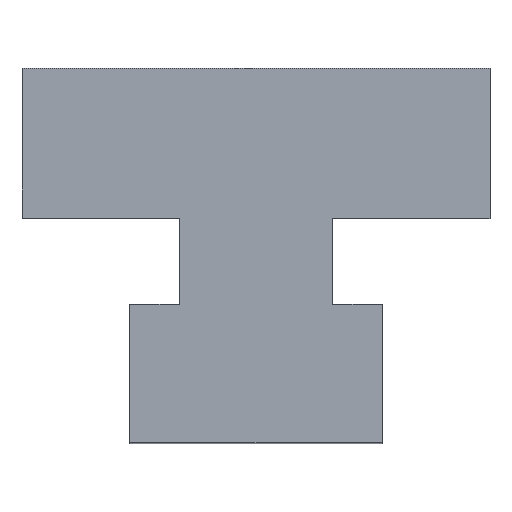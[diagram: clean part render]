
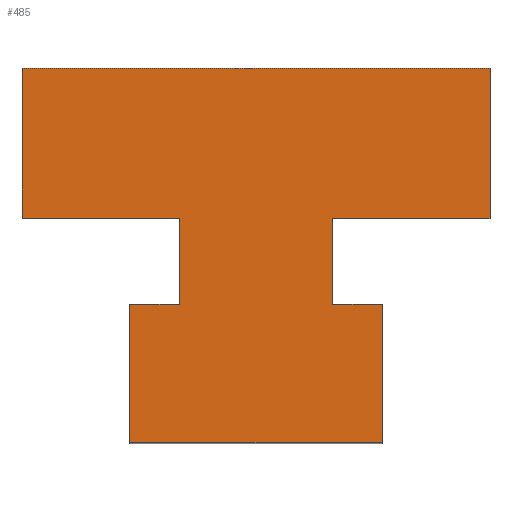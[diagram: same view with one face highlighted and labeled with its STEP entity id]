
A CAD part, top view. The second image highlights one B-rep face of the part: STEP entity #485.
In plain terms, the highlighted planar face has unit normal (0, 0, 1).
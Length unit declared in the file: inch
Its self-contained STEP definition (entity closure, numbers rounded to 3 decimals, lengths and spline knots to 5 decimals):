
#79=CARTESIAN_POINT('',(0.16142,-0.1811,1.0));
#80=VERTEX_POINT('',#79);
#81=CARTESIAN_POINT('',(0.26575,-0.1811,1.0));
#82=VERTEX_POINT('',#81);
#83=CARTESIAN_POINT('',(0.16142,-0.1811,1.0));
#84=DIRECTION('',(1.0,0.0,0.0));
#85=VECTOR('',#84,0.10433);
#86=LINE('',#83,#85);
#87=EDGE_CURVE('',#80,#82,#86,.T.);
#119=CARTESIAN_POINT('',(0.26575,-0.47244,1.0));
#120=VERTEX_POINT('',#119);
#121=CARTESIAN_POINT('',(0.26575,-0.1811,1.0));
#122=DIRECTION('',(0.0,-1.0,0.0));
#123=VECTOR('',#122,0.29134);
#124=LINE('',#121,#123);
#125=EDGE_CURVE('',#82,#120,#124,.T.);
#150=CARTESIAN_POINT('',(-0.26575,-0.47244,1.0));
#151=VERTEX_POINT('',#150);
#152=CARTESIAN_POINT('',(0.26575,-0.47244,1.0));
#153=DIRECTION('',(-1.0,0.0,0.0));
#154=VECTOR('',#153,0.5315);
#155=LINE('',#152,#154);
#156=EDGE_CURVE('',#120,#151,#155,.T.);
#181=CARTESIAN_POINT('',(-0.26575,-0.1811,1.0));
#182=VERTEX_POINT('',#181);
#183=CARTESIAN_POINT('',(-0.26575,-0.47244,1.0));
#184=DIRECTION('',(0.0,1.0,0.0));
#185=VECTOR('',#184,0.29134);
#186=LINE('',#183,#185);
#187=EDGE_CURVE('',#151,#182,#186,.T.);
#212=CARTESIAN_POINT('',(-0.16142,-0.1811,1.0));
#213=VERTEX_POINT('',#212);
#214=CARTESIAN_POINT('',(-0.26575,-0.1811,1.0));
#215=DIRECTION('',(1.0,0.0,0.0));
#216=VECTOR('',#215,0.10433);
#217=LINE('',#214,#216);
#218=EDGE_CURVE('',#182,#213,#217,.T.);
#243=CARTESIAN_POINT('',(-0.16142,0.,1.0));
#244=VERTEX_POINT('',#243);
#245=CARTESIAN_POINT('',(-0.16142,-0.1811,1.0));
#246=DIRECTION('',(0.0,1.0,0.0));
#247=VECTOR('',#246,0.1811);
#248=LINE('',#245,#247);
#249=EDGE_CURVE('',#213,#244,#248,.T.);
#274=CARTESIAN_POINT('',(-0.49213,0.,1.0));
#275=VERTEX_POINT('',#274);
#276=CARTESIAN_POINT('',(-0.16142,0.,1.0));
#277=DIRECTION('',(-1.0,0.0,0.0));
#278=VECTOR('',#277,0.33071);
#279=LINE('',#276,#278);
#280=EDGE_CURVE('',#244,#275,#279,.T.);
#305=CARTESIAN_POINT('',(-0.49213,0.31496,1.0));
#306=VERTEX_POINT('',#305);
#307=CARTESIAN_POINT('',(-0.49213,0.,1.0));
#308=DIRECTION('',(0.0,1.0,0.0));
#309=VECTOR('',#308,0.31496);
#310=LINE('',#307,#309);
#311=EDGE_CURVE('',#275,#306,#310,.T.);
#336=CARTESIAN_POINT('',(0.49213,0.31496,1.0));
#337=VERTEX_POINT('',#336);
#338=CARTESIAN_POINT('',(-0.49213,0.31496,1.0));
#339=DIRECTION('',(1.0,0.0,0.0));
#340=VECTOR('',#339,0.98425);
#341=LINE('',#338,#340);
#342=EDGE_CURVE('',#306,#337,#341,.T.);
#367=CARTESIAN_POINT('',(0.49213,0.,1.0));
#368=VERTEX_POINT('',#367);
#369=CARTESIAN_POINT('',(0.49213,0.31496,1.0));
#370=DIRECTION('',(0.0,-1.0,0.0));
#371=VECTOR('',#370,0.31496);
#372=LINE('',#369,#371);
#373=EDGE_CURVE('',#337,#368,#372,.T.);
#398=CARTESIAN_POINT('',(0.16142,0.,1.0));
#399=VERTEX_POINT('',#398);
#400=CARTESIAN_POINT('',(0.49213,0.,1.0));
#401=DIRECTION('',(-1.0,0.0,0.0));
#402=VECTOR('',#401,0.33071);
#403=LINE('',#400,#402);
#404=EDGE_CURVE('',#368,#399,#403,.T.);
#429=CARTESIAN_POINT('',(0.16142,0.,1.0));
#430=DIRECTION('',(0.0,-1.0,0.0));
#431=VECTOR('',#430,0.1811);
#432=LINE('',#429,#431);
#433=EDGE_CURVE('',#399,#80,#432,.T.);
#466=CARTESIAN_POINT('',(0.,-0.02598,1.0));
#467=DIRECTION('',(0.0,0.0,1.0));
#468=DIRECTION('',(1.0,0.0,0.0));
#469=AXIS2_PLACEMENT_3D('',#466,#467,#468);
#470=PLANE('',#469);
#471=ORIENTED_EDGE('',*,*,#87,.F.);
#472=ORIENTED_EDGE('',*,*,#433,.F.);
#473=ORIENTED_EDGE('',*,*,#404,.F.);
#474=ORIENTED_EDGE('',*,*,#373,.F.);
#475=ORIENTED_EDGE('',*,*,#342,.F.);
#476=ORIENTED_EDGE('',*,*,#311,.F.);
#477=ORIENTED_EDGE('',*,*,#280,.F.);
#478=ORIENTED_EDGE('',*,*,#249,.F.);
#479=ORIENTED_EDGE('',*,*,#218,.F.);
#480=ORIENTED_EDGE('',*,*,#187,.F.);
#481=ORIENTED_EDGE('',*,*,#156,.F.);
#482=ORIENTED_EDGE('',*,*,#125,.F.);
#483=EDGE_LOOP('',(#471,#472,#473,#474,#475,#476,#477,#478,#479,#480,#481,#482));
#484=FACE_OUTER_BOUND('',#483,.T.);
#485=ADVANCED_FACE('',(#484),#470,.T.);
